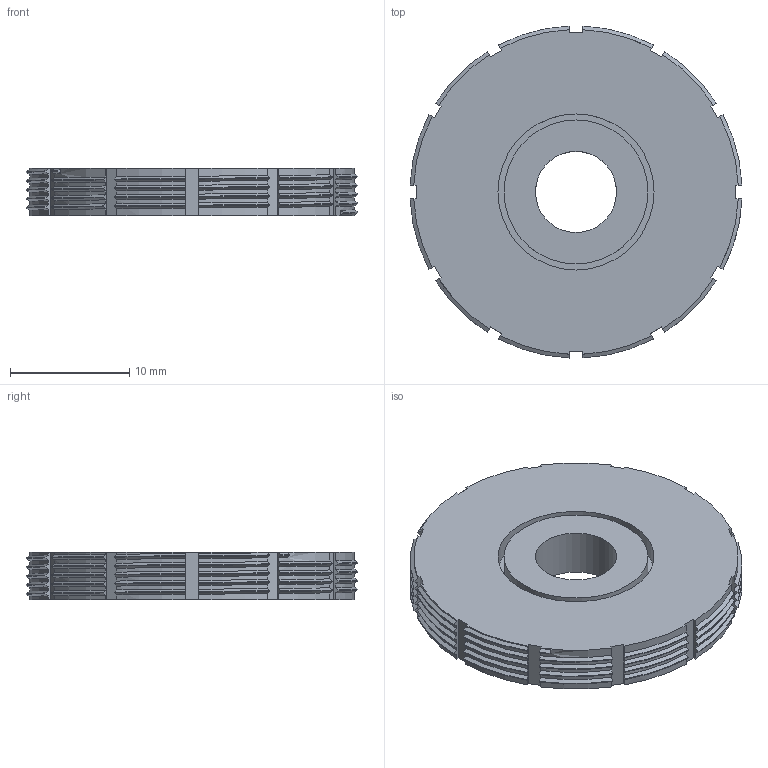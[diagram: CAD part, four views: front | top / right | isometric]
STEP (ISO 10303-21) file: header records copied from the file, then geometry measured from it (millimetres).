
FILE_DESCRIPTION(('Open CASCADE Model'),'2;1');
FILE_NAME('Open CASCADE Shape Model','2026-09-24T02:53:20',('Author'),( 'Open CASCADE'),'Open CASCADE STEP processor 7.8','Open CASCADE 7.8' ,'Unknown');
FILE_SCHEMA(('AUTOMOTIVE_DESIGN { 1 0 10303 214 1 1 1 1 }'));
Products named in the file (1): Open CASCADE STEP translator 7.8 29
Bounding box: 27.86 x 27.86 x 4 mm (x, y, z)
Volume: 1651.8 mm3; surface area: 2114.5 mm2
Topology: 1 solids, 1 shells, 307 faces, 891 edges, 594 vertices
Faces by surface type: bspline 171, cylinder 80, plane 56
Full cylindrical faces by diameter (mm): 1.7 x2, 6.8 x1, 12.08 x1, 13.1 x1
Entity records: 67506 total; most frequent: CARTESIAN_POINT 52994, ORIENTED_EDGE 1782, PCURVE 1782, DEFINITIONAL_REPRESENTATION 1782, DIRECTION 1521, B_SPLINE_CURVE_WITH_KNOTS 1476, LINE 1097, VECTOR 1097
